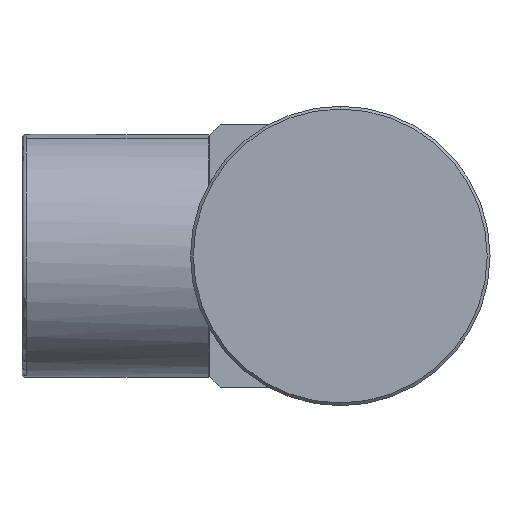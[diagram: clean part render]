
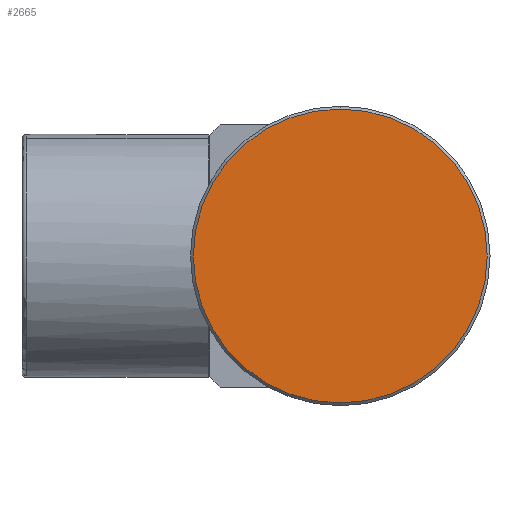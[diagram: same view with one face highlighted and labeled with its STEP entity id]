
A CAD part, left-side view. The second image highlights one B-rep face of the part: STEP entity #2665.
In plain terms, the highlighted planar face has unit normal (-1, 0, 0).
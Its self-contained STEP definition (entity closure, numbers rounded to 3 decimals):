
#242 = CARTESIAN_POINT ( 'NONE',  ( 0., 0., 15.7 ) ) ;
#291 = PLANE ( 'NONE',  #2851 ) ;
#356 = AXIS2_PLACEMENT_3D ( 'NONE', #884, #2872, #3179 ) ;
#423 = CIRCLE ( 'NONE', #2844, 15.7 ) ;
#867 = CARTESIAN_POINT ( 'NONE',  ( 0., 14.75, 0. ) ) ;
#884 = CARTESIAN_POINT ( 'NONE',  ( 0., 0., 0. ) ) ;
#917 = EDGE_CURVE ( 'NONE', #2910, #1284, #2348, .T. ) ;
#1001 = CARTESIAN_POINT ( 'NONE',  ( 0., 0., 0. ) ) ;
#1242 = ORIENTED_EDGE ( 'NONE', *, *, #917, .T. ) ;
#1284 = VERTEX_POINT ( 'NONE', #3338 ) ;
#1575 = EDGE_CURVE ( 'NONE', #1284, #2910, #423, .T. ) ;
#1735 = DIRECTION ( 'NONE',  ( 0., 0., -1. ) ) ;
#2348 = CIRCLE ( 'NONE', #356, 15.7 ) ;
#2437 = DIRECTION ( 'NONE',  ( 0., 0., -1. ) ) ;
#2665 = ADVANCED_FACE ( 'NONE', ( #3619 ), #291, .F. ) ;
#2719 = EDGE_LOOP ( 'NONE', ( #3355, #1242 ) ) ;
#2844 = AXIS2_PLACEMENT_3D ( 'NONE', #1001, #3491, #2437 ) ;
#2851 = AXIS2_PLACEMENT_3D ( 'NONE', #867, #3125, #1735 ) ;
#2872 = DIRECTION ( 'NONE',  ( -1., 0., 0. ) ) ;
#2910 = VERTEX_POINT ( 'NONE', #242 ) ;
#3125 = DIRECTION ( 'NONE',  ( 1., 0., 0. ) ) ;
#3179 = DIRECTION ( 'NONE',  ( 0., 0., -1. ) ) ;
#3338 = CARTESIAN_POINT ( 'NONE',  ( 0., 0., -15.7 ) ) ;
#3355 = ORIENTED_EDGE ( 'NONE', *, *, #1575, .T. ) ;
#3491 = DIRECTION ( 'NONE',  ( -1., 0., 0. ) ) ;
#3619 = FACE_OUTER_BOUND ( 'NONE', #2719, .T. ) ;
